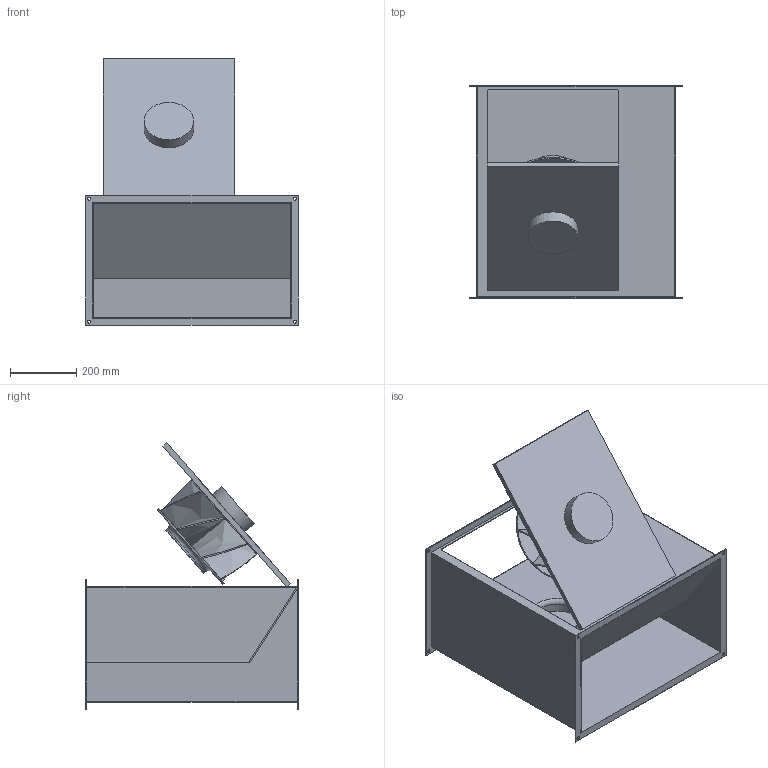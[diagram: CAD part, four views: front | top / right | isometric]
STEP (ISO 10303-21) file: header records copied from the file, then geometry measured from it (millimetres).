
FILE_DESCRIPTION(/* description */ (''),/* implementation_level */ '2;1');
FILE_NAME(/* name */ 'Z:\Output\KRW_355-4-60-35-08692-011.stp',/* time_stamp */ '2017-07-19T15:43:02+02:00',/* author */ ('Engineering1'),/* organization */ (''),/* preprocessor_version */ 'ST-DEVELOPER v16.5',/* originating_system */ 'Autodesk Inventor 2017',/* authorisation */ '');
FILE_SCHEMA (('AUTOMOTIVE_DESIGN { 1 0 10303 214 3 1 1 }'));
Length unit declared in the file: millimetre
Products named in the file (1): KR-1
Bounding box: 643 x 642 x 805.79 mm (x, y, z)
Volume: 8829784.8 mm3; surface area: 4128316.8 mm2
Topology: 1 solids, 1 shells, 130 faces, 336 edges, 199 vertices
Faces by surface type: plane 84, bspline 24, cylinder 19, torus 3
Full cylindrical faces by diameter (mm): 9 x8, 150 x3, 170 x1, 174 x1, 300 x2
Entity records: 4451 total; most frequent: CARTESIAN_POINT 1212, ORIENTED_EDGE 636, DIRECTION 595, EDGE_CURVE 316, LINE 203, VECTOR 203, VERTEX_POINT 197, AXIS2_PLACEMENT_3D 196
